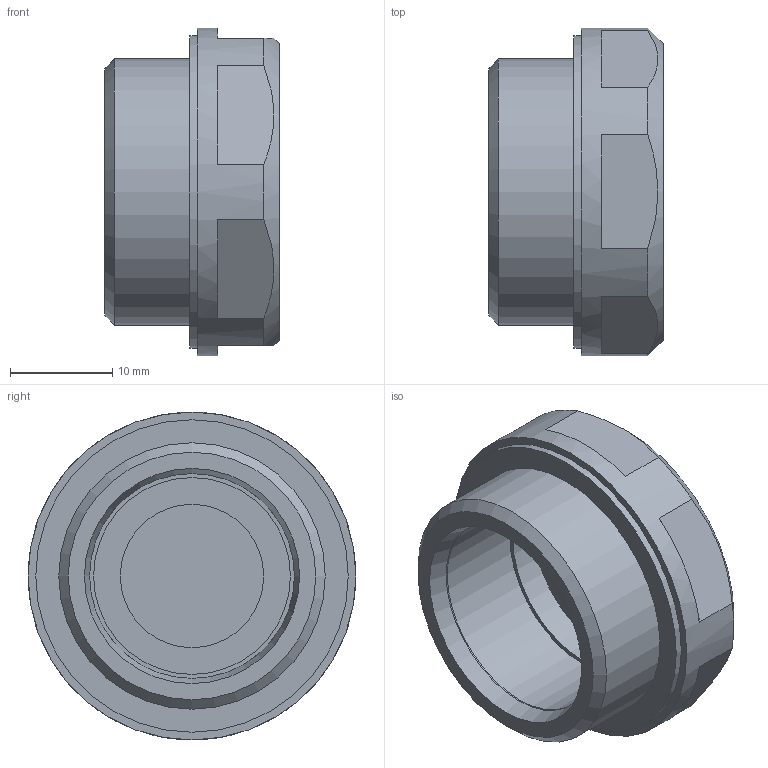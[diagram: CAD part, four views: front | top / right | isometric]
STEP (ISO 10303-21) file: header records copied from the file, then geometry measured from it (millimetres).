
FILE_DESCRIPTION( ( 'STEP AP203' ), '1' );
FILE_NAME( 'C:/Temp/Ganter_Step_05_03_2020/data/3_5/gn_7403/gn_7403_al/Breather strainer GN 7403-AL-M26x1,5-100.stp', '2020-03-12T13:42:59', ( 'License CC BY-ND 4.0' ), ( 'CADENAS' ), ' ', 'PARTsolutions', ' ' );
FILE_SCHEMA( ( 'CONFIG_CONTROL_DESIGN' ) );
Length unit declared in the file: millimetre
Products named in the file (1): _Breather strainer GN 7403-AL-M26x1,5-100
Bounding box: 17 x 32 x 32 mm (x, y, z)
Volume: 6018.7 mm3; surface area: 3988.2 mm2
Topology: 1 solids, 1 shells, 32 faces, 69 edges, 45 vertices
Faces by surface type: plane 20, cylinder 7, cone 4, torus 1
Full cylindrical faces by diameter (mm): 14 x1, 18 x1, 19.2 x1, 20 x1, 26 x1, 30.5 x1, 32 x1
Entity records: 878 total; most frequent: CARTESIAN_POINT 183, DIRECTION 144, ORIENTED_EDGE 108, AXIS2_PLACEMENT_3D 63, EDGE_CURVE 54, EDGE_LOOP 50, VERTEX_POINT 42, FACE_OUTER_BOUND 40
